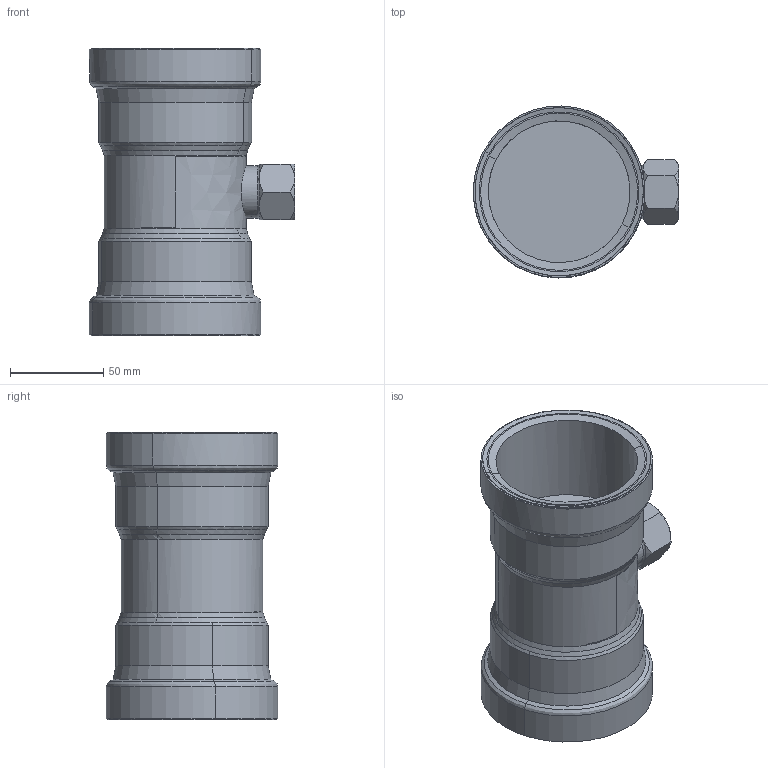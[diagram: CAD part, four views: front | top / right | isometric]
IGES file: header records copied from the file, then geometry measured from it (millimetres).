
Start section: 3D InterOp IGES (Version 25 0 1), Spatial Corp. Copyright (c) 1999-2007.
Global section: file name: pim0004512.igs; native system: Spatial Corp.; preprocessor: 3D InterOp ACIS/IGES; author: Cad-Pim; organization: TransMagic, Inc.; date: 20150430.082003; units: millimetre
Bounding box: 110.05 x 92 x 154.21 mm (x, y, z)
Volume: 388747.2 mm3; surface area: 82398.1 mm2
Topology: 1 solids, 1 shells, 86 faces, 241 edges, 156 vertices
Faces by surface type: bspline 44, cone 22, cylinder 20
